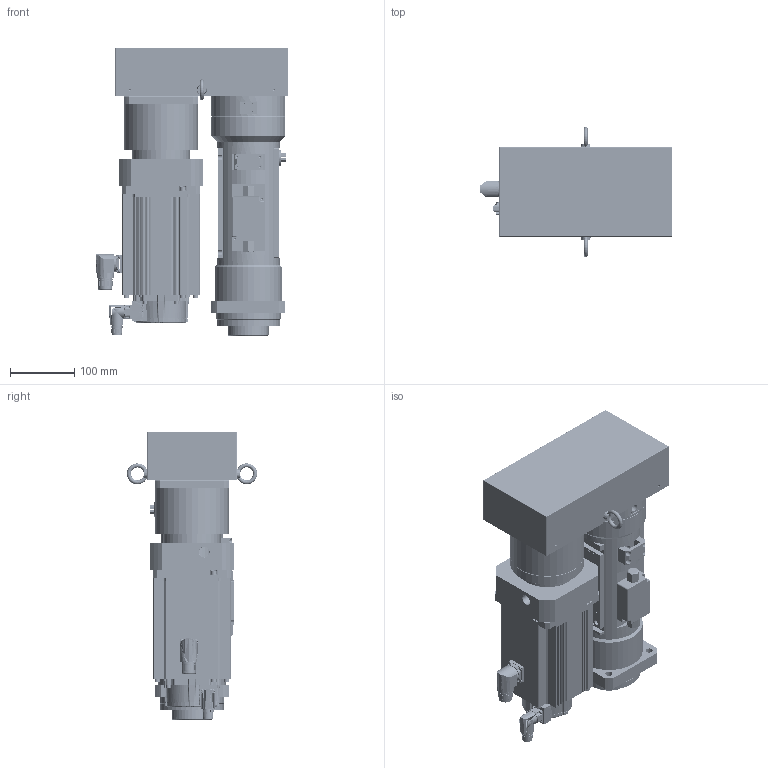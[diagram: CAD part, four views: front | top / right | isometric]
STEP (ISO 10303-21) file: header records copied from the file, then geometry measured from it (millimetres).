
FILE_DESCRIPTION( ('This file contains a STEP AP42 implementation' ,'as created by ZW3D STEP Interface translator.') ,'2;1' );
FILE_NAME( 'OACIS-DC-P025-P030-100-215-A6V400_V20.51.stp' ,'26 421.181042', (''), ('ZWCAD Software Co.'), 'Version 1.0', 'ZW3D to STEP translator', '' );
FILE_SCHEMA(('AUTOMOTIVE_DESIGN { 1 0 10303 214 1 1 1 1 }'));
Length unit declared in the file: millimetre
Products named in the file (1): 0
Bounding box: 299.5 x 202.6 x 448 mm (x, y, z)
Volume: 7807500.3 mm3; surface area: 1315333.2 mm2
Topology: 51 solids, 54 shells, 3520 faces, 9123 edges, 5972 vertices
Faces by surface type: cylinder 1599, plane 1418, cone 349, torus 109, bspline 25, sphere 20
Full cylindrical faces by diameter (mm): 1.25 x12, 1.6 x8, 2.232 x6, 2.459 x5, 2.75 x4, 2.8 x1, 3.2 x5, 3.242 x10, 3.3 x68, 4 x8, 4.134 x14, 4.2 x4, 4.3 x21, 4.5 x4, 5 x36, 5.5 x9, 6 x4, 6.6 x14, 6.647 x4, 6.8 x42, 7 x12, 8 x29, 8.4 x8, 8.5 x35, 9 x8, 9.5 x4, 10 x8, 10.106 x1, 11 x12, 12 x1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
Entity records: 117609 total; most frequent: CARTESIAN_POINT 23594, DIRECTION 19923, ORIENTED_EDGE 17982, EDGE_CURVE 9033, AXIS2_PLACEMENT_3D 7843, VERTEX_POINT 5926, CIRCLE 4324, VECTOR 4237
